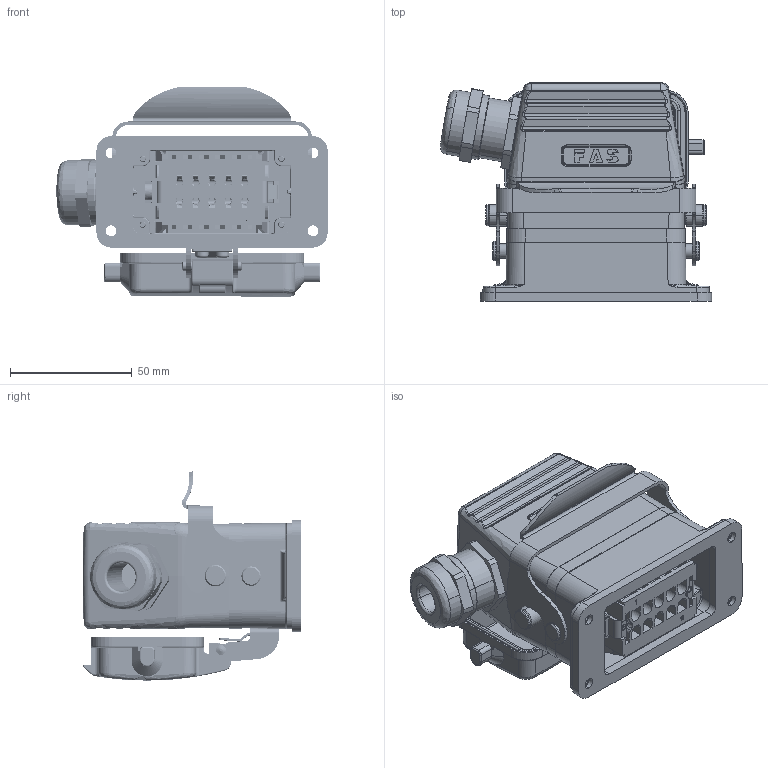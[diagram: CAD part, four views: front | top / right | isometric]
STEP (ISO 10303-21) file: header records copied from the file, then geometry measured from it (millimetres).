
FILE_DESCRIPTION (( 'STEP AP214' ), '1' );
FILE_NAME ('09010105120P HE、10针、开孔带盖底座、侧出M20套件、配塑料接头.STEP', '2024-04-26T07:50:14', ( 'L' ), ( '' ), 'SwSTEP 2.0', 'SolidWorks 2019', '' );
FILE_SCHEMA (( 'AUTOMOTIVE_DESIGN' ));
Length unit declared in the file: millimetre
Products named in the file (9): 09010105120P HE、10针、开孔带盖底座、侧出M20套件、配塑料接头; H10B-AD-LB.STEP; ____1.STEP; 10bmifengquan-1-solid1.STEP; 1019.STEP; H10B-TS-RO-M20.step; HE-010-M.stp; HE-010-F.stp; FAS-20-P.step
Assembly tree (8 placements, depth 4):
  09010105120P HE、10针、开孔带盖底座、侧出M20套件、配塑料接头
    HE-010-F.stp
    HE-010-M.stp
    FAS-20-P.step
    H10B-AD-LB.STEP
      1019.STEP
        10bmifengquan-1-solid1.STEP
        ____1.STEP
    H10B-TS-RO-M20.step
Bounding box: 111.48 x 89.8 x 85.95 mm (x, y, z)
Volume: 187245.6 mm3; surface area: 121677.4 mm2
Topology: 6 solids, 11 shells, 5269 faces, 14054 edges, 8812 vertices
Faces by surface type: plane 2352, cylinder 1239, bspline 1003, cone 460, torus 171, sphere 44
Entity records: 273132 total; most frequent: CARTESIAN_POINT 137709, ORIENTED_EDGE 27836, DIRECTION 22357, EDGE_CURVE 13918, VERTEX_POINT 8784, LINE 7481, VECTOR 7481, AXIS2_PLACEMENT_3D 7438
